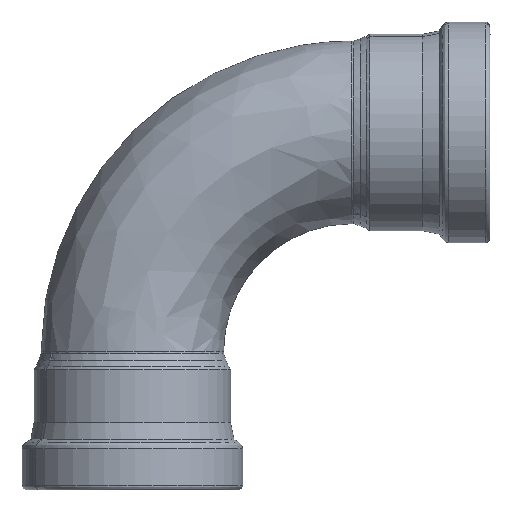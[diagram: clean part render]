
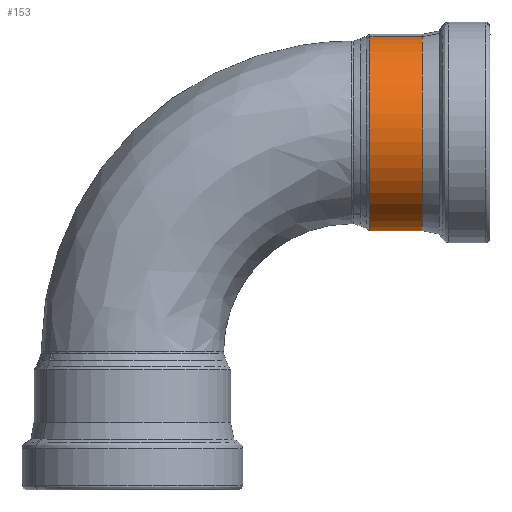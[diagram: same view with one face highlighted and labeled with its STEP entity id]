
A CAD part, front view. The second image highlights one B-rep face of the part: STEP entity #153.
In plain terms, the highlighted free-form (B-spline) face has degree [1, 2] with [2, 9] control points.
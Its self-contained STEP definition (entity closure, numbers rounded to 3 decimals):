
#153=ADVANCED_FACE('',(#340),#341,.T.);
#340=FACE_OUTER_BOUND('',#1364,.T.);
#341=(B_SPLINE_SURFACE(1,2,((#1366,#1367,#1368,#1369,#1370,#1371,#1372,#1373,#1374),(#1375,#1376,#1377,#1378,#1379,#1380,#1381,#1382,#1383)),.UNSPECIFIED.,.F.,.T.,.F.)B_SPLINE_SURFACE_WITH_KNOTS((2,2),(3,2,2,2,3),(-0.53,0.),(0.0,64.403,128.805,193.208,257.611),.UNSPECIFIED.)RATIONAL_B_SPLINE_SURFACE(((1.0,0.707,1.0,0.707,1.0,0.707,1.0,0.707,1.0),(1.0,0.707,1.0,0.707,1.0,0.707,1.0,0.707,1.0)))BOUNDED_SURFACE()REPRESENTATION_ITEM('')GEOMETRIC_REPRESENTATION_ITEM()SURFACE());
#1364=EDGE_LOOP('',(#2999,#3000,#3001,#3002));
#1366=CARTESIAN_POINT('',(120.711,9.845,-39.8));
#1367=CARTESIAN_POINT('',(120.711,49.645,-29.956));
#1368=CARTESIAN_POINT('',(120.711,39.8,9.845));
#1369=CARTESIAN_POINT('',(120.711,29.956,49.645));
#1370=CARTESIAN_POINT('',(120.711,-9.845,39.8));
#1371=CARTESIAN_POINT('',(120.711,-49.645,29.956));
#1372=CARTESIAN_POINT('',(120.711,-39.8,-9.845));
#1373=CARTESIAN_POINT('',(120.711,-29.956,-49.645));
#1374=CARTESIAN_POINT('',(120.711,9.845,-39.8));
#1375=CARTESIAN_POINT('',(99.,9.845,-39.8));
#1376=CARTESIAN_POINT('',(99.,49.645,-29.956));
#1377=CARTESIAN_POINT('',(99.,39.8,9.845));
#1378=CARTESIAN_POINT('',(99.,29.956,49.645));
#1379=CARTESIAN_POINT('',(99.,-9.845,39.8));
#1380=CARTESIAN_POINT('',(99.,-49.645,29.956));
#1381=CARTESIAN_POINT('',(99.,-39.8,-9.845));
#1382=CARTESIAN_POINT('',(99.,-29.956,-49.645));
#1383=CARTESIAN_POINT('',(99.,9.845,-39.8));
#2999=ORIENTED_EDGE('',*,*,#3359,.F.);
#3000=ORIENTED_EDGE('',*,*,#3361,.F.);
#3001=ORIENTED_EDGE('',*,*,#3362,.F.);
#3002=ORIENTED_EDGE('',*,*,#3354,.T.);
#3354=EDGE_CURVE('',#3650,#3646,#3651,.T.);
#3359=EDGE_CURVE('',#3656,#3646,#3658,.T.);
#3361=EDGE_CURVE('',#3660,#3656,#3661,.T.);
#3362=EDGE_CURVE('',#3650,#3660,#3662,.T.);
#3646=VERTEX_POINT('',#4710);
#3650=VERTEX_POINT('',#4728);
#3651=(B_SPLINE_CURVE(2,(#4730,#4731,#4732,#4733,#4734),.UNSPECIFIED.,.F.,.F.)B_SPLINE_CURVE_WITH_KNOTS((3,2,3),(0.,1.571,3.078),.UNSPECIFIED.)RATIONAL_B_SPLINE_CURVE((1.0,0.707,1.0,0.719,0.977))BOUNDED_CURVE()REPRESENTATION_ITEM('')GEOMETRIC_REPRESENTATION_ITEM()CURVE());
#3656=VERTEX_POINT('',#4747);
#3658=B_SPLINE_CURVE_WITH_KNOTS('',1,(#4762,#4763),.UNSPECIFIED.,.F.,.F.,(2,2),(0.,0.53),.UNSPECIFIED.);
#3660=VERTEX_POINT('',#4765);
#3661=(B_SPLINE_CURVE(2,(#4767,#4768,#4769,#4770,#4771),.UNSPECIFIED.,.F.,.F.)B_SPLINE_CURVE_WITH_KNOTS((3,2,3),(0.,1.571,3.078),.UNSPECIFIED.)RATIONAL_B_SPLINE_CURVE((1.0,0.707,1.0,0.719,0.977))BOUNDED_CURVE()REPRESENTATION_ITEM('')GEOMETRIC_REPRESENTATION_ITEM()CURVE());
#3662=B_SPLINE_CURVE_WITH_KNOTS('',1,(#4778,#4779),.UNSPECIFIED.,.F.,.F.,(2,2),(-0.53,0.),.UNSPECIFIED.);
#4710=CARTESIAN_POINT('',(120.711,-9.845,39.8));
#4728=CARTESIAN_POINT('',(120.711,7.538,-40.301));
#4730=CARTESIAN_POINT('',(120.711,7.538,-40.301));
#4731=CARTESIAN_POINT('',(120.711,-32.764,-47.839));
#4732=CARTESIAN_POINT('',(120.711,-40.301,-7.538));
#4733=CARTESIAN_POINT('',(120.711,-47.417,30.507));
#4734=CARTESIAN_POINT('',(120.711,-9.845,39.8));
#4747=CARTESIAN_POINT('',(99.,-9.845,39.8));
#4762=CARTESIAN_POINT('',(99.,-9.845,39.8));
#4763=CARTESIAN_POINT('',(120.711,-9.845,39.8));
#4765=CARTESIAN_POINT('',(99.,7.538,-40.301));
#4767=CARTESIAN_POINT('',(99.,7.538,-40.301));
#4768=CARTESIAN_POINT('',(99.,-32.764,-47.839));
#4769=CARTESIAN_POINT('',(99.,-40.301,-7.538));
#4770=CARTESIAN_POINT('',(99.,-47.417,30.507));
#4771=CARTESIAN_POINT('',(99.,-9.845,39.8));
#4778=CARTESIAN_POINT('',(120.711,7.538,-40.301));
#4779=CARTESIAN_POINT('',(99.,7.538,-40.301));
